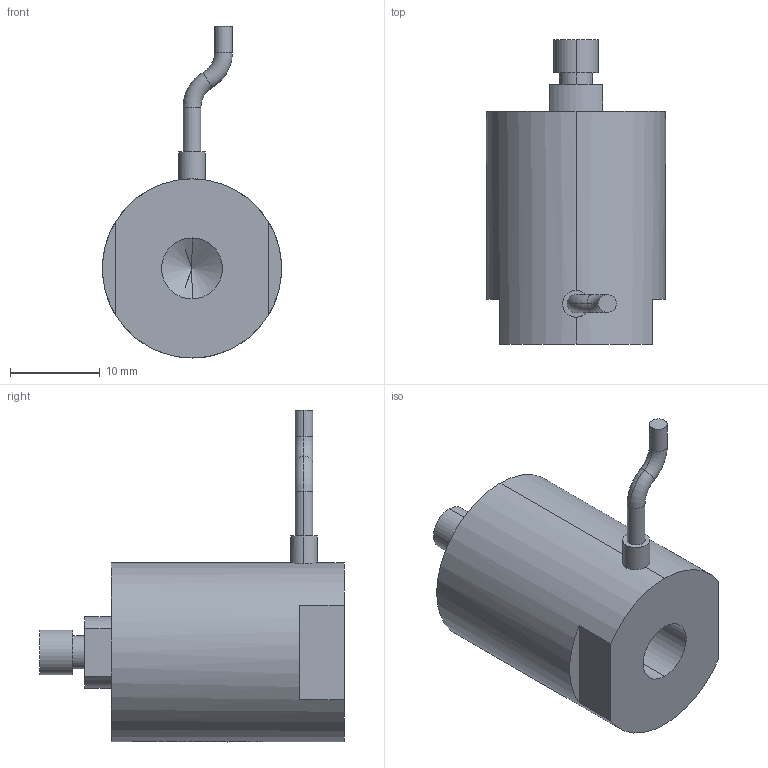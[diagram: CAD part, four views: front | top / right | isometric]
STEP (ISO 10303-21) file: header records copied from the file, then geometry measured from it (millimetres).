
FILE_DESCRIPTION (( 'STEP AP203' ), '1' );
FILE_NAME ('ﾍ篦ﾝﾎﾆﾊｽ7VS20.STEP', '2021-07-08T06:06:11', ( 'ﾎ｢ﾈ橆ﾃｻｧ' ), ( 'ﾎ｢ﾈ晥ｫﾋｾ' ), 'SwSTEP 2.0', 'SolidWorks 2016', '' );
FILE_SCHEMA (( 'CONFIG_CONTROL_DESIGN' ));
Products named in the file (1): 俋蹟恇宒7VS20
Bounding box: 20 x 34 x 37.06 mm (x, y, z)
Volume: 7931 mm3; surface area: 2784.6 mm2
Topology: 1 solids, 1 shells, 919 faces, 2486 edges, 1653 vertices
Faces by surface type: bspline 501, plane 304, cylinder 108, torus 4, cone 2
Entity records: 43216 total; most frequent: CARTESIAN_POINT 24539, ORIENTED_EDGE 4968, EDGE_CURVE 2484, DIRECTION 1922, B_SPLINE_CURVE_WITH_KNOTS 1666, VERTEX_POINT 1653, EDGE_LOOP 1005, ADVANCED_FACE 919
